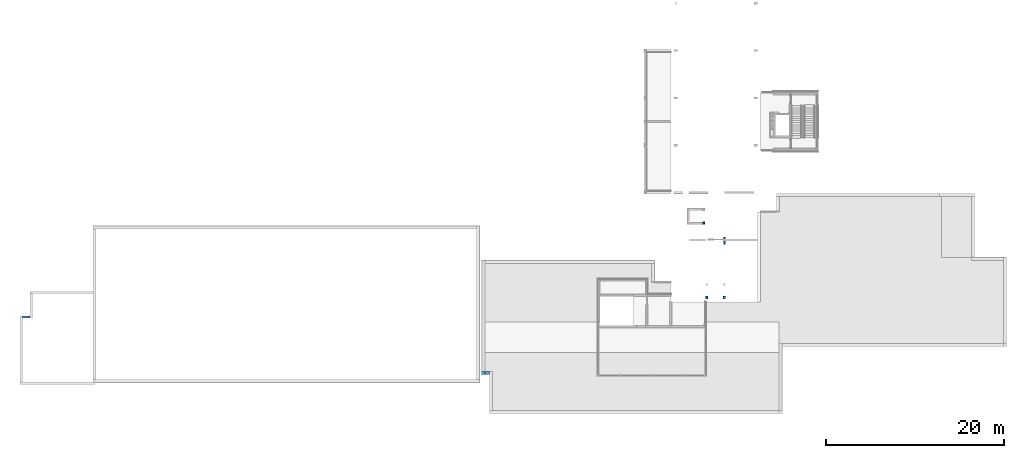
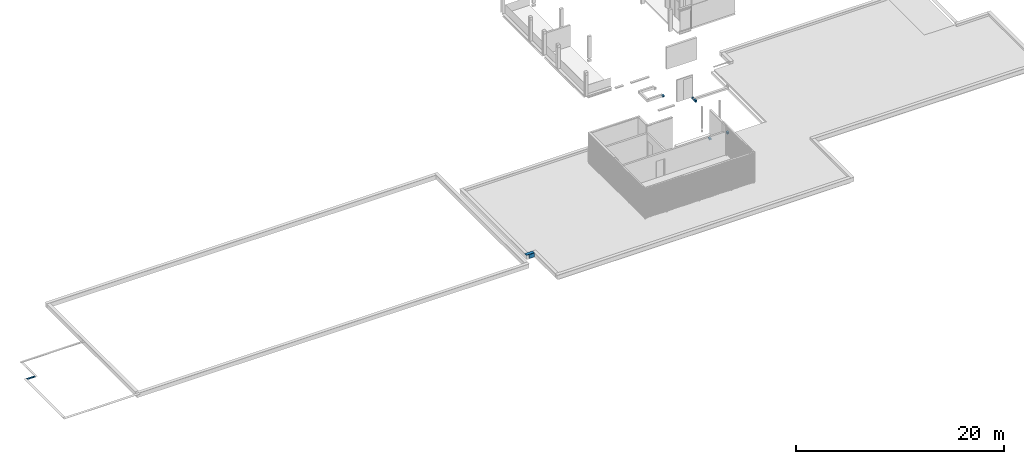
# One storey, part 7 of 22: 7 walls.
"""IFC2X3 building model written with IfcOpenShell, lengths in millimetres."""

from ifc_helpers import new_model, entity, si_unit, converted_unit, derived_unit, money_unit, direction, frame, origin_with_axes, place, context, subcontext, project, spatial, faceted_brep, material, type_object, element, save


model = new_model("IFC2X3")

# Units and contexts
model_context = context("Model", 3, precision=0.01, world=origin_with_axes(), true_north=direction((0.0, 1.0)))
body_context = subcontext(model_context, "Body", "Model", "MODEL_VIEW")
ifc_project = project(units=[si_unit("LENGTHUNIT", "METRE", prefix="MILLI"), si_unit("AREAUNIT", "SQUARE_METRE"), si_unit("VOLUMEUNIT", "CUBIC_METRE"), converted_unit("PLANEANGLEUNIT", "DEGREE", entity("IfcPlaneAngleMeasure", 0.0174532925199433), si_unit("PLANEANGLEUNIT", "RADIAN"), dimensions=[0, 0, 0, 0, 0, 0, 0]), money_unit("EUR"), converted_unit("TIMEUNIT", "Year", entity("IfcTimeMeasure", 31557600.0), si_unit("TIMEUNIT", "SECOND"), dimensions=[0, 0, 1, 0, 0, 0, 0]), si_unit("MASSUNIT", "GRAM", prefix="KILO"), si_unit("THERMODYNAMICTEMPERATUREUNIT", "DEGREE_CELSIUS"), si_unit("LUMINOUSINTENSITYUNIT", "LUMEN"), si_unit("ENERGYUNIT", "JOULE", prefix="MEGA"), derived_unit("THERMALCONDUCTANCEUNIT", [(si_unit("POWERUNIT", "WATT"), 1), (si_unit("LENGTHUNIT", "METRE"), -1), (si_unit("THERMODYNAMICTEMPERATUREUNIT", "KELVIN"), -1)]), derived_unit("SPECIFICHEATCAPACITYUNIT", [(si_unit("ENERGYUNIT", "JOULE"), 1), (si_unit("MASSUNIT", "GRAM", prefix="KILO"), -1), (si_unit("THERMODYNAMICTEMPERATUREUNIT", "KELVIN"), -1)]), derived_unit("MASSDENSITYUNIT", [(si_unit("MASSUNIT", "GRAM", prefix="KILO"), 1), (si_unit("VOLUMEUNIT", "CUBIC_METRE"), -1)])], contexts=[model_context])

# Site, building, storey
site_placement = place(None, origin_with_axes())
site = spatial("IfcSite", under=ifc_project, at=site_placement, Name="Site", CompositionType="ELEMENT")
building_placement = place(site_placement, origin_with_axes())
building = spatial("IfcBuilding", under=site, at=building_placement, Name="Naam gebouw", CompositionType="ELEMENT")
storey_placement = place(building_placement, frame((0.0, 0.0, 11150.0), z_axis=(0.0, 0.0, 1.0), x_axis=(1.0, 0.0, 0.0)))
storey = spatial("IfcBuildingStorey", under=building, at=storey_placement, Name="3e verdieping/dak N", CompositionType="ELEMENT", Elevation=11150.0)

# Walls
ifc_material_1 = material(Name="ALG - CONSTRUCTIEF")
wall_type_1 = type_object("IfcWallType", Name="ALG - CONSTRUCTIEF 200", PredefinedType="NOTDEFINED")
for number, where, z_axis, x_axis, name in (
    (1, (24200.0, 16000.91242510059, -99.99999999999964), (0.0, 0.0, 1.0), (0.0, 1.0, 0.0), "_Wand-x"),
    (2, (26189.99999999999, 16000.91242510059, -99.99999999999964), (0.0, 0.0, 1.0), (0.0, 1.0, 0.0), "_Wand-x"),
):
    element("IfcWall", number, at=place(storey_placement, frame(where, z_axis=z_axis, x_axis=x_axis)), inside=storey, type_object=wall_type_1, material=ifc_material_1, Name=name, context=body_context, shape_type="Brep", body=[
        faceted_brep([(295.6226220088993, 100.0000000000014, 0.0), (295.6226220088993, 100.0000000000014, 210.0000000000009), (295.6226220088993, -100.0000000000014, 210.0000000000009), (295.6226220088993, -100.0000000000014, 0.0), (0.0, 100.0000000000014, 0.0), (0.0, 100.0000000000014, 210.0000000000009), (0.0, -100.0000000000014, 210.0000000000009), (0.0, -100.0000000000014, 0.0)], [[[0, 1, 2, 3]], [[4, 5, 1, 0]], [[5, 6, 2, 1]], [[3, 2, 6, 7]], [[0, 3, 7, 4]], [[7, 6, 5, 4]]]),
    ])
wall_1_placement = place(storey_placement, frame((23855.44427079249, 24395.91245076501, 0.0), z_axis=(0.0, 0.0, 1.0), x_axis=(0.0, 1.0, 0.0)))
element("IfcWall", 3, at=wall_1_placement, inside=storey, type_object=wall_type_1, material=ifc_material_1, Name="_Wand-x", context=body_context, shape_type="Brep", body=[
    faceted_brep([(260.1245461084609, 100.0000000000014, 0.0), (260.1245461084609, 100.0000000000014, 110.0000000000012), (260.1245461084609, -100.0000000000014, 110.0000000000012), (260.1245461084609, -100.0000000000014, 0.0), (0.0, 100.0000000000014, 0.0), (0.0, 100.0000000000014, 110.0000000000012), (0.0, -100.0000000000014, 110.0000000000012), (0.0, -100.0000000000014, 0.0)], [[[0, 1, 2, 3]], [[4, 5, 1, 0]], [[5, 6, 2, 1]], [[3, 2, 6, 7]], [[3, 7, 4, 0]], [[7, 6, 5, 4]]]),
])
wall_2_placement = place(storey_placement, frame((26199.99999999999, 22170.91242510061, -99.99999999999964), z_axis=(0.0, 0.0, 1.0), x_axis=(0.0, 1.0, 0.0)))
element("IfcWall", 4, at=wall_2_placement, inside=storey, type_object=wall_type_1, material=ifc_material_1, Name="_Wand-x", context=body_context, shape_type="Brep", body=[
    faceted_brep([(329.9999999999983, 99.99999999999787, 0.0), (329.9999999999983, 99.99999999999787, 210.0000000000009), (329.9999999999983, -100.0000000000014, 210.0000000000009), (329.9999999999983, -100.0000000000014, 0.0), (0.0, 100.0000000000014, 0.0), (0.0, 99.99999999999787, 210.0000000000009), (0.0, -100.0000000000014, 210.0000000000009), (0.0, -100.0000000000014, 0.0)], [[[0, 1, 2, 3]], [[4, 5, 1, 0]], [[5, 6, 2, 1]], [[3, 2, 6, 7]], [[7, 4, 0, 3]], [[7, 6, 5, 4]]]),
    faceted_brep([(774.9999999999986, 100.0000000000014, 0.0), (774.9999999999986, 99.99999999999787, 210.0000000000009), (774.9999999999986, -100.0000000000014, 210.0000000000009), (774.9999999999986, -100.0000000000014, 0.0), (579.9999999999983, 99.99999999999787, 0.0), (579.9999999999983, 99.99999999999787, 210.0000000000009), (579.9999999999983, -100.0000000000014, 210.0000000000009), (579.9999999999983, -100.0000000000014, 0.0)], [[[0, 1, 2, 3]], [[4, 5, 1, 0]], [[5, 6, 2, 1]], [[3, 2, 6, 7]], [[0, 3, 7, 4]], [[7, 6, 5, 4]]]),
])
ifc_material_2 = material(Name="ALG - BUITENAFWERKING")
wall_type_2 = type_object("IfcWallType", Name="ALG - BUITENAFWERKING 360", PredefinedType="NOTDEFINED")
wall_3_placement = place(storey_placement, frame((-770.0761052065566, 7835.779842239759, 400.0000000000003), z_axis=(0.0, 0.0, 1.0), x_axis=(1.0, 0.0, 0.0)))
element("IfcWall", 5, at=wall_3_placement, inside=storey, type_object=wall_type_2, material=ifc_material_2, Name="_Wand-x", context=body_context, shape_type="Brep", body=[
    faceted_brep([(510.0761530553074, -359.9999999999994, 25.00000000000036), (510.0761530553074, 0.0, 25.00000000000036), (-360.0000000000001, 0.0, 25.00000000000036), (-360.0000000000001, -360.0000000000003, 25.00000000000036), (510.0761530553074, -359.9999999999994, 0.0), (510.0761530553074, 0.0, 0.0), (-360.0000000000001, 0.0, 0.0), (-360.0000000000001, -360.0000000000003, 0.0)], [[[0, 1, 2, 3]], [[1, 0, 4, 5]], [[1, 5, 6, 2]], [[7, 3, 2, 6]], [[4, 0, 3, 7]], [[5, 4, 7, 6]]]),
])
ifc_material_3 = material(Name="ALG - ALGEMEEN")
wall_type_3 = type_object("IfcWallType", Name="ALG - ALGEMEEN 330", PredefinedType="NOTDEFINED")
wall_4_placement = place(storey_placement, frame((-770.0761052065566, 7835.779842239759, -99.99999999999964), z_axis=(0.0, 0.0, 1.0), x_axis=(1.0, 0.0, 0.0)))
element("IfcWall", 6, at=wall_4_placement, inside=storey, type_object=wall_type_3, material=ifc_material_3, Name="_Wand-x", context=body_context, shape_type="Brep", body=[
    faceted_brep([(540.0761530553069, -330.0000000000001, 0.0), (540.0761530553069, -140.1905991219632, 0.0), (540.0761530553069, -140.1905991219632, 99.99999999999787), (540.0761530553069, 0.0, 99.99999999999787), (540.0761530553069, 0.0, 500.0), (540.0761530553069, -330.0000000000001, 500.0), (0.0, -330.0000000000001, 0.0), (0.0, -140.1905991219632, 0.0), (0.0, -140.1905991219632, 99.99999999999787), (0.0, 0.0, 99.99999999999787), (0.0, 0.0, 500.0), (0.0, -330.0000000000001, 500.0)], [[[0, 1, 2, 3, 4, 5]], [[6, 7, 1, 0]], [[8, 2, 1, 7]], [[8, 9, 3, 2]], [[4, 3, 9, 10]], [[11, 5, 4, 10]], [[6, 0, 5, 11]], [[9, 8, 7, 6, 11, 10]]]),
])
wall_type_4 = type_object("IfcWallType", Name="ALG - BUITENAFWERKING 230", PredefinedType="NOTDEFINED")
wall_5_placement = place(storey_placement, frame((-53049.99999999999, 13895.57502434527, 60.0000000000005), z_axis=(0.0, 0.0, 1.0), x_axis=(1.0, 0.0, 0.0)))
element("IfcWall", 7, at=wall_5_placement, inside=storey, type_object=wall_type_4, material=ifc_material_2, Name="_Wand-x", context=body_context, shape_type="Brep", body=[
    faceted_brep([(1120.000000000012, -29.99999999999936, 25.00000000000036), (1120.000000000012, 199.9999999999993, 25.00000000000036), (250.0, 199.9999999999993, 25.00000000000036), (250.0, -29.99999999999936, 25.00000000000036), (1120.000000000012, -29.99999999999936, 0.0), (1120.000000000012, 199.9999999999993, 0.0), (250.0, 199.9999999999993, 0.0), (250.0, -29.99999999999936, 0.0)], [[[0, 1, 2, 3]], [[1, 0, 4, 5]], [[1, 5, 6, 2]], [[7, 3, 2, 6]], [[4, 0, 3, 7]], [[5, 4, 7, 6]]]),
])

save(model, "model.ifc")
